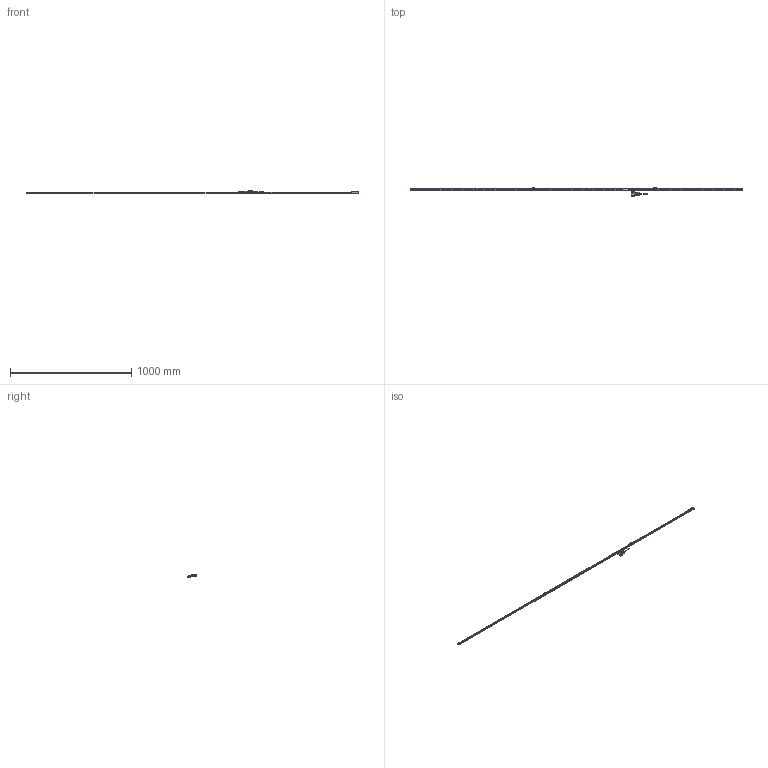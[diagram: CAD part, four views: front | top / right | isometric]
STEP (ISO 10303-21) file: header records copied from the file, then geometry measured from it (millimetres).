
FILE_DESCRIPTION(('Creo Elements/Direct Modeling STEP Export'),'2;1');
FILE_NAME('ST46EZA-2600D.stp','2018-03-22T18:00:05',(''),(''),'Creo Elements/Direct Modeling STEP processor for AP214 (Solid Model)','Creo Elements/Direct Modeling 18.1B 29-Sep-2012 (C) Parametric Technology GmbH','');
FILE_SCHEMA(('AUTOMOTIVE_DESIGN { 1 0 10303 214 1 1 1 1 }'));
Products named in the file (4): IF_Unit; Detector_Head; Scale_2600; ST46EZA-2600D
Assembly tree (3 placements, depth 2):
  ST46EZA-2600D
    Scale_2600
    Detector_Head
    IF_Unit
Bounding box: 2742 x 74.86 x 18.68 mm (x, y, z)
Volume: 3158.7 mm3; surface area: 156780.8 mm2
Topology: 1 solids, 4 shells, 2810 faces, 7547 edges, 4927 vertices
Faces by surface type: plane 1661, cylinder 944, extrusion 104, cone 38, torus 30, bspline 29, revolution 4
Entity records: 94258 total; most frequent: CARTESIAN_POINT 24533, ORIENTED_EDGE 15089, DIRECTION 13201, EDGE_CURVE 7549, VECTOR 4961, VERTEX_POINT 4931, LINE 4877, AXIS2_PLACEMENT_3D 4117
